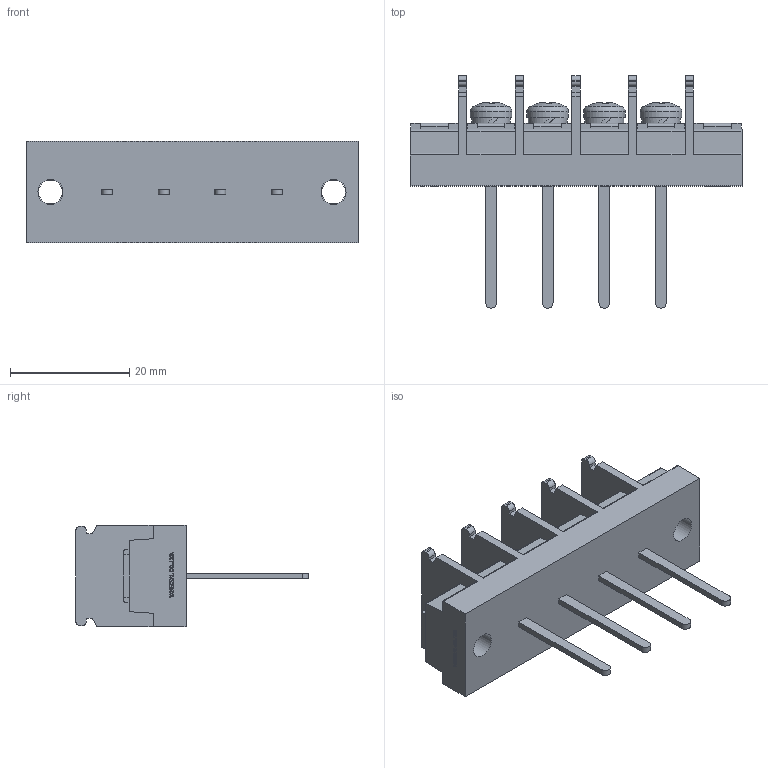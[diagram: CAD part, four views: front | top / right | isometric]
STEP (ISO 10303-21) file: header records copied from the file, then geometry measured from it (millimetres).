
FILE_DESCRIPTION(/* description */ ('Alibre Inc.'),/* implementation_level */ '2;1');
FILE_NAME(/* name */ 'export-CBFAF2D9-E5E1-43FE-AC2E-AFB9F3B3943D',/* time_stamp */ '2021-02-02T11:19:27+09:00',/* author */ (''),/* organization */ (''),/* preprocessor_version */ 'ST-DEVELOPER v17',/* originating_system */ 'Alibre',/* authorisation */ '');
FILE_SCHEMA (('CONFIG_CONTROL_DESIGN'));
Length unit declared in the file: millimetre
Bounding box: 55.7 x 39 x 17 mm (x, y, z)
Volume: 9666.3 mm3; surface area: 6637.4 mm2
Topology: 1 solids, 5 shells, 764 faces, 2084 edges, 1386 vertices
Faces by surface type: plane 548, bspline 104, cylinder 80, cone 20, torus 8, sphere 4
Full cylindrical faces by diameter (mm): 4 x10, 4.2 x2, 6.5 x4, 7 x4
Entity records: 23295 total; most frequent: CARTESIAN_POINT 5202, ORIENTED_EDGE 4076, DIRECTION 2830, EDGE_CURVE 2038, VECTOR 1490, LINE 1490, VERTEX_POINT 1368, AXIS2_PLACEMENT_3D 936
